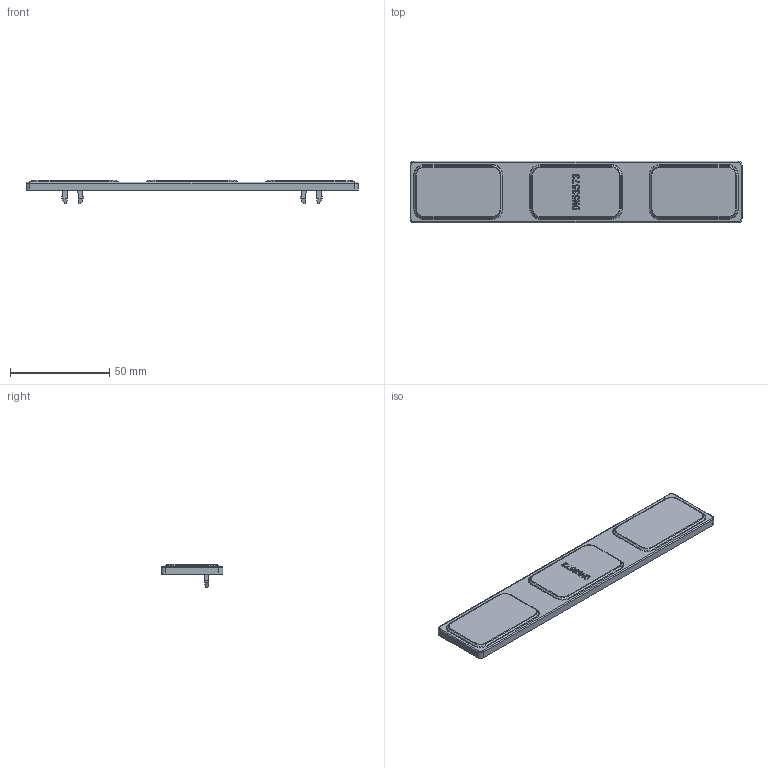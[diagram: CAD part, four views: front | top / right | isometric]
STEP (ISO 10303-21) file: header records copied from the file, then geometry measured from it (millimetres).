
FILE_DESCRIPTION (( 'STEP AP214' ), '1' );
FILE_NAME ('53573.STEP', '2021-08-11T05:58:16', ( '' ), ( '' ), 'SwSTEP 2.0', 'SolidWorks 2017', '' );
FILE_SCHEMA (( 'AUTOMOTIVE_DESIGN' ));
Length unit declared in the file: millimetre
Products named in the file (2): 53573
Bounding box: 167 x 31 x 12 mm (x, y, z)
Volume: 24177.6 mm3; surface area: 12216.5 mm2
Topology: 1 solids, 1 shells, 202 faces, 491 edges, 306 vertices
Faces by surface type: plane 108, bspline 50, cylinder 32, cone 12
Entity records: 10322 total; most frequent: CARTESIAN_POINT 4359, ORIENTED_EDGE 982, DIRECTION 815, EDGE_CURVE 491, VECTOR 331, LINE 331, VERTEX_POINT 306, AXIS2_PLACEMENT_3D 242
